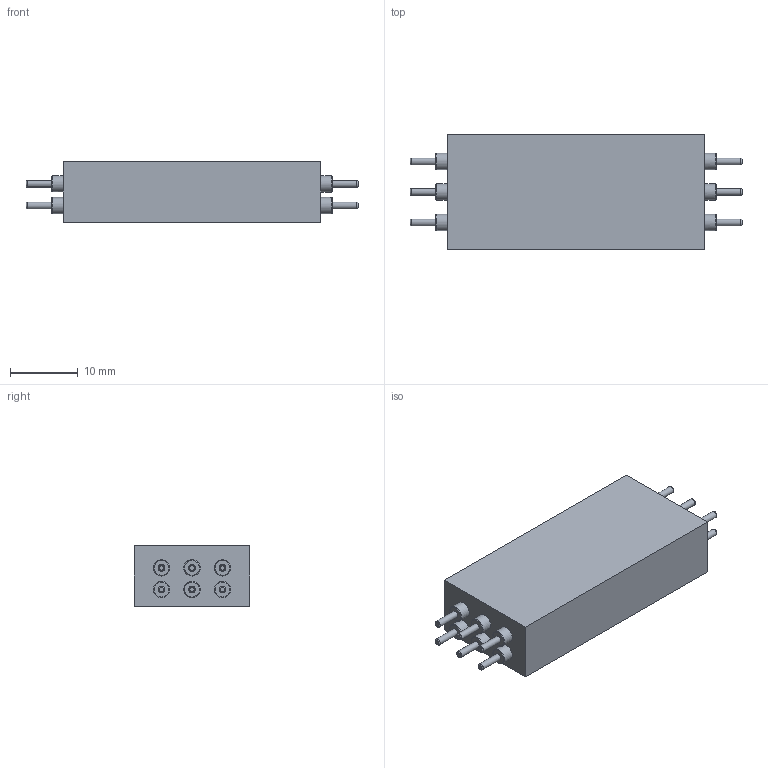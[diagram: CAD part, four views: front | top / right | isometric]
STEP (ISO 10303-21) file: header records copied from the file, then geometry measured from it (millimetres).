
FILE_DESCRIPTION(/* description */ (''),/* implementation_level */ '2;1');
FILE_NAME(/* name */ 'F:\daten\PRODUKTE\TELEMETR\SV\Mechanik\CAD\3c\Geh_B17xT38xH9\kunde\SV_3c_B17xT38xH9.stp',/* time_stamp */ '2019-09-03T09:22:53+02:00',/* author */ ('dschaefer'),/* organization */ (''),/* preprocessor_version */ 'ST-DEVELOPER v16.5',/* originating_system */ 'Autodesk Inventor 2017',/* authorisation */ '');
FILE_SCHEMA (('AUTOMOTIVE_DESIGN { 1 0 10303 214 3 1 1 }'));
Length unit declared in the file: millimetre
Products named in the file (1): SV_3c_B17xT38xH9
Bounding box: 49 x 17 x 9 mm (x, y, z)
Volume: 5880.9 mm3; surface area: 2833.6 mm2
Topology: 1 solids, 2 shells, 112 faces, 246 edges, 164 vertices
Faces by surface type: plane 46, cylinder 29, torus 28, cone 9
Full cylindrical faces by diameter (mm): 1 x12, 2.4 x12, 3.8 x1
Entity records: 2802 total; most frequent: DIRECTION 508, CARTESIAN_POINT 423, ORIENTED_EDGE 342, AXIS2_PLACEMENT_3D 224, EDGE_LOOP 188, EDGE_CURVE 171, VERTEX_POINT 139, FACE_OUTER_BOUND 112
